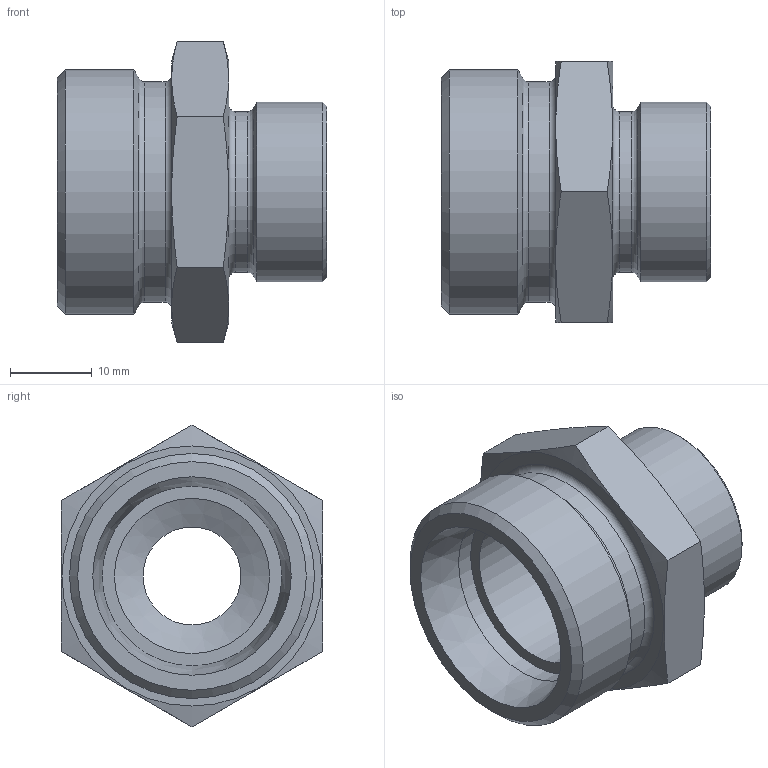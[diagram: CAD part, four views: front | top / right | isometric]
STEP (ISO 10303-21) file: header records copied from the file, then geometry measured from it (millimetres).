
FILE_DESCRIPTION( ( 'Unknown' ), '1' );
FILE_NAME( 'C:/Users/p.nanko/Desktop/3D SR/XGR2215L.stp', 'Unknown', ( 'Peter Nanko' ), ( 'Armaturen Arndt' ), 'PSStep 14.0', 'Solid Edge ST4', ' ' );
FILE_SCHEMA( ( 'AUTOMOTIVE_DESIGN { 1 0 10303 214 1 1 1 1 }' ) );
Length unit declared in the file: millimetre
Products named in the file (1): 1
Bounding box: 33 x 32 x 36.95 mm (x, y, z)
Volume: 11666.1 mm3; surface area: 6153.9 mm2
Topology: 1 solids, 1 shells, 33 faces, 70 edges, 43 vertices
Faces by surface type: plane 12, cone 9, cylinder 8, torus 4
Full cylindrical faces by diameter (mm): 12 x1, 15 x1, 19 x1, 19.7 x1, 22 x2, 27 x1, 30 x1
Entity records: 1092 total; most frequent: CARTESIAN_POINT 216, DIRECTION 126, ORIENTED_EDGE 88, AXIS2_PLACEMENT_3D 60, EDGE_LOOP 60, FACE_OUTER_BOUND 45, EDGE_CURVE 44, VERTEX_POINT 38
